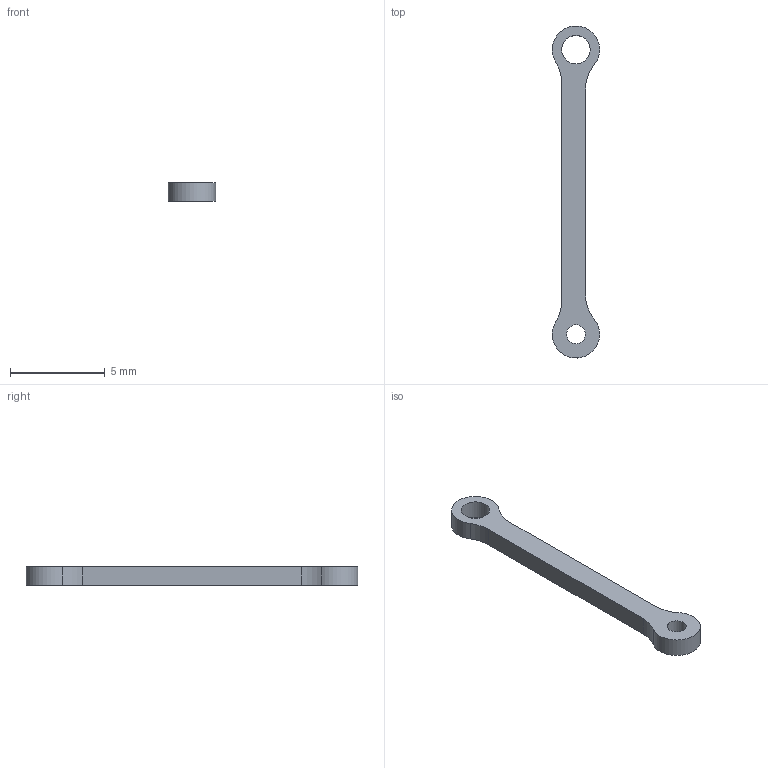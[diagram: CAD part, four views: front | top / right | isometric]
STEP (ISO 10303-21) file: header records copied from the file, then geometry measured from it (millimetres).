
FILE_DESCRIPTION(/* description */ (''),/* implementation_level */ '2;1');
FILE_NAME(/* name */ 'C:\Users\user\Desktop\Motor 1 cilindro\Biela.stp',/* time_stamp */ '2021-08-16T19:46:59-05:00',/* author */ ('user'),/* organization */ (''),/* preprocessor_version */ 'ST-DEVELOPER v18.1',/* originating_system */ 'Autodesk Inventor 2022',/* authorisation */ '');
FILE_SCHEMA (('AUTOMOTIVE_DESIGN { 1 0 10303 214 3 1 1 }'));
Length unit declared in the file: millimetre
Products named in the file (1): Biela
Bounding box: 2.5 x 17.49 x 1 mm (x, y, z)
Volume: 23.3 mm3; surface area: 92.9 mm2
Topology: 1 solids, 1 shells, 12 faces, 30 edges, 20 vertices
Faces by surface type: cylinder 8, plane 4
Full cylindrical faces by diameter (mm): 1 x1, 1.5 x1
Entity records: 419 total; most frequent: DIRECTION 72, CARTESIAN_POINT 63, ORIENTED_EDGE 60, EDGE_CURVE 30, AXIS2_PLACEMENT_3D 29, VERTEX_POINT 20, EDGE_LOOP 16, CIRCLE 16
